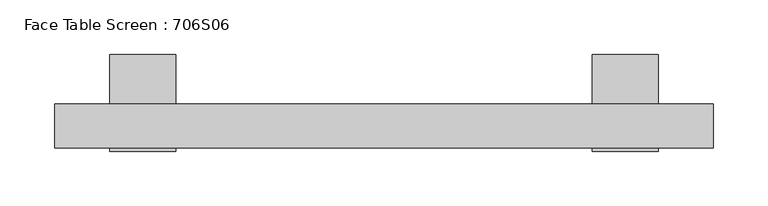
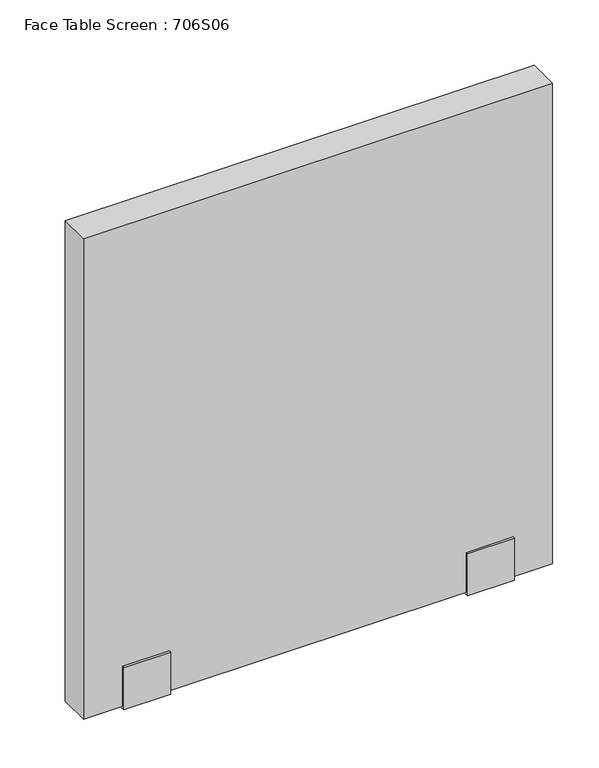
"""IFC4 building model written with IfcOpenShell, lengths in millimetres: furniture geometry, Face Table Screen : 706S06."""

from ifc_helpers import new_model, si_unit, frame, origin, place, context, project, spatial, polyline, outline, extrude, source, transform, mapped, element, save


def face_table_screen_706s06_c9b9419e(model_context):
    return source(origin(), model_context, "Body", "SweptSolid", [
        extrude(outline(polyline([(-22.9999947, -256.0), (-22.9999997, -199.0433898), (-20.0, -199.0433898), (-20.0, -253.0), (20.0, -253.0), (20.0, -22.0), (65.0, -22.0), (65.0, -25.0433898), (23.0000062, -25.0433898), (22.9999947, -256.0), (-22.9999947, -256.0)])), frame((190.0, 0.0, 0.0), z_axis=(1.0, 0.0, 0.0), x_axis=(0.0, 1.0, 0.0)), (0.0, 0.0, 1.0), 60.0),
        extrude(outline(polyline([(-22.9999947, -256.0), (-22.9999997, -199.0433898), (-20.0, -199.0433898), (-20.0, -253.0), (20.0, -253.0), (20.0, -22.0), (65.0, -22.0), (65.0, -25.0433898), (23.0000062, -25.0433898), (22.9999947, -256.0), (-22.9999947, -256.0)])), frame((-250.0, 0.0, 0.0), z_axis=(1.0, 0.0, 0.0), x_axis=(0.0, 1.0, 0.0)), (0.0, 0.0, 1.0), 60.0),
        extrude(outline(polyline([(300.0, -20.0), (-300.0, -20.0), (-300.0, 20.0), (300.0, 20.0), (300.0, -20.0)])), frame((0.0, 0.0, -253.0), z_axis=(0.0, 0.0, 1.0), x_axis=(1.0, 0.0, 0.0)), (0.0, 0.0, 1.0), 650.0),
    ])


if __name__ == "__main__":
    model = new_model("IFC4")
    model_context = context("Model", 3, world=origin())
    ifc_project = project(units=[si_unit("LENGTHUNIT", "METRE", prefix="MILLI")], contexts=[model_context])
    site = spatial("IfcSite", under=ifc_project)
    building = spatial("IfcBuilding", under=site)
    placement = place(None, origin())
    face_table_screen_706s06_shape = face_table_screen_706s06_c9b9419e(model_context)
    element("IfcFurniture", 1, ObjectType="Face Table Screen : 706S06", at=placement, inside=building, context=model_context, shape_type="MappedRepresentation", body=[
        mapped(face_table_screen_706s06_shape, transform((0.0, 0.0, 0.0), x_axis=(1.0, 0.0, 0.0), y_axis=(0.0, 1.0, 0.0), z_axis=(0.0, 0.0, 1.0))),
    ])
    save(model, "model.ifc")
